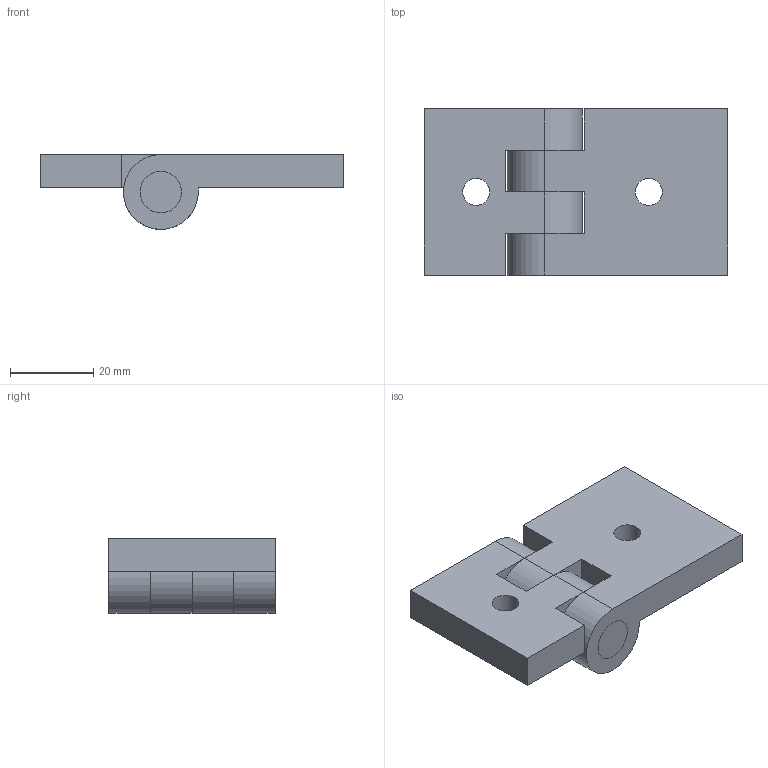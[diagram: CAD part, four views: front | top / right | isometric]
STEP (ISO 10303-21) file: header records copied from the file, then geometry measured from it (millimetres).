
FILE_DESCRIPTION((''),'2;1');
FILE_NAME('CE3045_ASM','2002-12-27T',('Lipro doo'),('Lipro d.o.o.'),'PRO/ENGINEER BY PARAMETRIC TECHNOLOGY CORPORATION, 2001150','PRO/ENGINEER BY PARAMETRIC TECHNOLOGY CORPORATION, 2001150','');
FILE_SCHEMA(('CONFIG_CONTROL_DESIGN'));
Length unit declared in the file: millimetre
Products named in the file (4): OS_FI10X40; CE30_1; CE45_1; CE3045_ASM
Assembly tree (3 placements, depth 2):
  CE3045_ASM
    OS_FI10X40
    CE30_1
    CE45_1
Bounding box: 73 x 40 x 17.99 mm (x, y, z)
Volume: 27442.5 mm3; surface area: 12673.6 mm2
Topology: 3 solids, 3 shells, 44 faces, 110 edges, 72 vertices
Faces by surface type: plane 22, cylinder 18, cone 4
Entity records: 1462 total; most frequent: DIRECTION 252, CARTESIAN_POINT 233, ORIENTED_EDGE 220, EDGE_CURVE 110, AXIS2_PLACEMENT_3D 91, VERTEX_POINT 72, VECTOR 70, LINE 70
